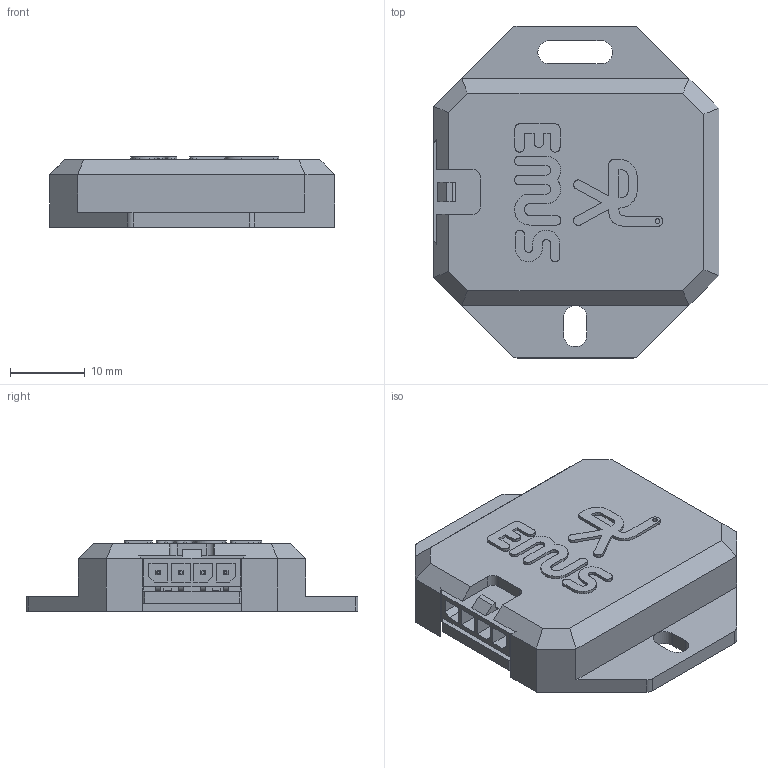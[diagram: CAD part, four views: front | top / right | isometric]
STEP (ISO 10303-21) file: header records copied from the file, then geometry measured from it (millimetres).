
FILE_DESCRIPTION(/* description */ (''),/* implementation_level */ '2;1');
FILE_NAME(/* name */ 'C:/Users/Justinas/Desktop/SCM031.step',/* time_stamp */ '2023-07-13T12:10:48+03:00',/* author */ (''),/* organization */ (''),/* preprocessor_version */ 'ST-DEVELOPER v18.1',/* originating_system */ 'Autodesk Translation Framework v10.10.0.1391',/* authorisation */ '');
FILE_SCHEMA (('AUTOMOTIVE_DESIGN { 1 0 10303 214 3 1 1 }'));
Length unit declared in the file: millimetre
Products named in the file (7): SCM031; Board; Open CASCADE STEP translator 6.8 1.1.1; J1; 436500413; Open CASCADE STEP translator 6.8 1.2.1.1; Open CASCADE STEP translator 6.8 1.2.1.2
Assembly tree (6 placements, depth 4):
  SCM031
    Board
      Open CASCADE STEP translator 6.8 1.1.1
    J1
      436500413
        Open CASCADE STEP translator 6.8 1.2.1.1
        Open CASCADE STEP translator 6.8 1.2.1.2
Bounding box: 38.2 x 44.4 x 9.45 mm (x, y, z)
Volume: 5345 mm3; surface area: 7756.8 mm2
Topology: 4 solids, 4 shells, 527 faces, 1467 edges, 947 vertices
Faces by surface type: plane 391, bspline 105, cylinder 31
Entity records: 17499 total; most frequent: CARTESIAN_POINT 4235, ORIENTED_EDGE 2934, DIRECTION 2398, EDGE_CURVE 1467, LINE 1178, VECTOR 1178, VERTEX_POINT 947, AXIS2_PLACEMENT_3D 610
